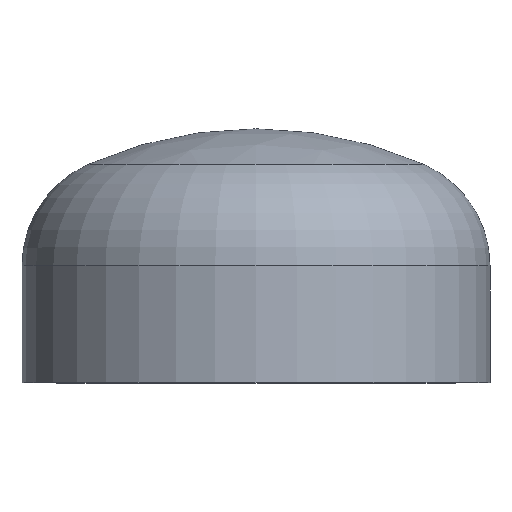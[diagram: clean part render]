
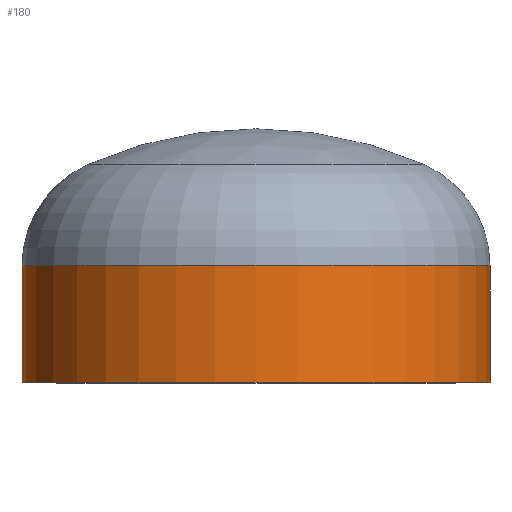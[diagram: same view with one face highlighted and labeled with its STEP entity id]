
A CAD part, top view. The second image highlights one B-rep face of the part: STEP entity #180.
In plain terms, the highlighted cylindrical face has radius 300 mm (diameter 600 mm), a partial arc.
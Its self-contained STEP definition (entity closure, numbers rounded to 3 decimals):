
#14 = ORIENTED_EDGE ( 'NONE', *, *, #81, .T. ) ;
#15 = VERTEX_POINT ( 'NONE', #264 ) ;
#38 = ORIENTED_EDGE ( 'NONE', *, *, #83, .T. ) ;
#40 = AXIS2_PLACEMENT_3D ( 'NONE', #112, #156, #374 ) ;
#53 = CARTESIAN_POINT ( 'NONE',  ( -300., 0., 0. ) ) ;
#56 = ORIENTED_EDGE ( 'NONE', *, *, #389, .F. ) ;
#62 = CARTESIAN_POINT ( 'NONE',  ( 0., 0., 0. ) ) ;
#69 = ORIENTED_EDGE ( 'NONE', *, *, #361, .F. ) ;
#79 = AXIS2_PLACEMENT_3D ( 'NONE', #314, #312, #309 ) ;
#81 = EDGE_CURVE ( 'NONE', #15, #244, #189, .T. ) ;
#83 = EDGE_CURVE ( 'NONE', #359, #15, #119, .T. ) ;
#112 = CARTESIAN_POINT ( 'NONE',  ( 0., 0., 0. ) ) ;
#113 = LINE ( 'NONE', #222, #383 ) ;
#119 = CIRCLE ( 'NONE', #79, 300. ) ;
#137 = CARTESIAN_POINT ( 'NONE',  ( 300., 150., 0. ) ) ;
#153 = FACE_OUTER_BOUND ( 'NONE', #157, .T. ) ;
#156 = DIRECTION ( 'NONE',  ( 0., -1., 0. ) ) ;
#157 = EDGE_LOOP ( 'NONE', ( #38, #14, #56, #69 ) ) ;
#166 = DIRECTION ( 'NONE',  ( 0., -1., 0. ) ) ;
#180 = ADVANCED_FACE ( 'NONE', ( #153 ), #217, .T. ) ;
#189 = LINE ( 'NONE', #236, #248 ) ;
#190 = CARTESIAN_POINT ( 'NONE',  ( 300., 0., 0. ) ) ;
#198 = VERTEX_POINT ( 'NONE', #190 ) ;
#217 = CYLINDRICAL_SURFACE ( 'NONE', #40, 300. ) ;
#218 = DIRECTION ( 'NONE',  ( 0., -1., 0. ) ) ;
#222 = CARTESIAN_POINT ( 'NONE',  ( 300., 0., 0. ) ) ;
#236 = CARTESIAN_POINT ( 'NONE',  ( -300., 0., 0. ) ) ;
#244 = VERTEX_POINT ( 'NONE', #53 ) ;
#248 = VECTOR ( 'NONE', #218, 1000. ) ;
#252 = AXIS2_PLACEMENT_3D ( 'NONE', #62, #166, #352 ) ;
#264 = CARTESIAN_POINT ( 'NONE',  ( -300., 150., 0. ) ) ;
#299 = DIRECTION ( 'NONE',  ( 0., -1., 0. ) ) ;
#306 = CIRCLE ( 'NONE', #252, 300. ) ;
#309 = DIRECTION ( 'NONE',  ( 1., 0., 0. ) ) ;
#312 = DIRECTION ( 'NONE',  ( 0., -1., 0. ) ) ;
#314 = CARTESIAN_POINT ( 'NONE',  ( 0., 150., 0. ) ) ;
#352 = DIRECTION ( 'NONE',  ( 1., 0., 0. ) ) ;
#359 = VERTEX_POINT ( 'NONE', #137 ) ;
#361 = EDGE_CURVE ( 'NONE', #359, #198, #113, .T. ) ;
#374 = DIRECTION ( 'NONE',  ( 1., 0., 0. ) ) ;
#383 = VECTOR ( 'NONE', #299, 1000. ) ;
#389 = EDGE_CURVE ( 'NONE', #198, #244, #306, .T. ) ;
